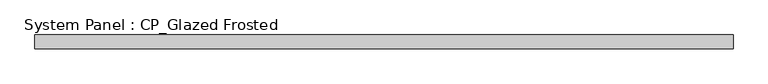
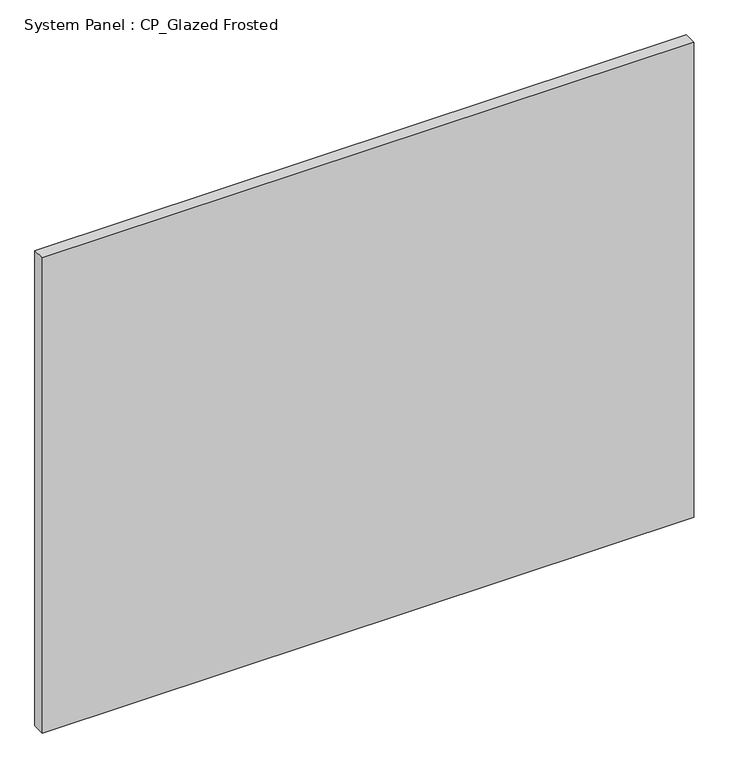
"""IFC4 building model written with IfcOpenShell, lengths in millimetres: plate geometry, System Panel : CP_Glazed Frosted."""

import ifcopenshell
import ifcopenshell.guid

model = None  # the IFC model being written
_history = None  # IfcOwnerHistory: only IFC2X3 demands one
_inside = {}  # id of a spatial element -> (the spatial element, [elements in it])
_under = {}  # id of a project, library or spatial element -> (it, [spatial elements below it])
_declared = {}  # id of a project -> (the project, [libraries it declares])
_typed = {}  # id of a type object -> (the type object, [elements of that type])
_made_of = {}  # id of a material, layer set ... -> (it, [elements and type objects made of it])


def new_model(schema):
    """Start an empty IFC model of exactly this schema.

    Asked for "IFC4X3", IfcOpenShell would pick the latest addendum, in which some entities
    have other attributes; the version numbers below select the first issue.
    IFC2X3 requires an IfcOwnerHistory on every rooted entity: one is made here for all.
    """
    global model, _history
    if schema == "IFC4X3":
        model = ifcopenshell.file(schema_version=(4, 3, 0, 0))
    else:
        model = ifcopenshell.file(schema=schema)
    _inside.clear()
    _under.clear()
    _declared.clear()
    _typed.clear()
    _made_of.clear()
    _history = None
    if model.schema == "IFC2X3":
        org = make("IfcOrganization", Name="unknown")
        user = make(
            "IfcPersonAndOrganization",
            ThePerson=make("IfcPerson", FamilyName="unknown"),
            TheOrganization=org,
        )
        app = make(
            "IfcApplication",
            ApplicationDeveloper=org,
            Version="unknown",
            ApplicationFullName="unknown",
            ApplicationIdentifier="unknown",
        )
        _history = make(
            "IfcOwnerHistory",
            OwningUser=user,
            OwningApplication=app,
            ChangeAction="ADDED",
            CreationDate=0,
        )
    return model


def make(cls, **values):
    """One entity of the class cls with the attributes given. An attribute that is None is left unset."""
    return model.create_entity(
        cls, **{name: value for name, value in values.items() if value is not None}
    )


def rooted(cls, **values):
    """An entity with a GlobalId (a new one), such as an element, a storey or a relation."""
    return make(cls, GlobalId=ifcopenshell.guid.new(), OwnerHistory=_history, **values)


def si_unit(unit_type, name, prefix=None):
    """IfcSIUnit, for example si_unit("LENGTHUNIT", "METRE", prefix="MILLI")."""
    return make("IfcSIUnit", UnitType=unit_type, Prefix=prefix, Name=name)


def assignment(units):
    """IfcUnitAssignment: the units of a project."""
    return None if units is None else make("IfcUnitAssignment", Units=units)


def point(xyz):
    """IfcCartesianPoint."""
    return None if xyz is None else make("IfcCartesianPoint", Coordinates=xyz)


def direction(xyz):
    """IfcDirection."""
    return None if xyz is None else make("IfcDirection", DirectionRatios=xyz)


def frame(location, z_axis=None, x_axis=None):
    """IfcAxis2Placement3D, a coordinate frame: its origin and axes. An axis left out is left unset."""
    return make(
        "IfcAxis2Placement3D",
        Location=point(location),
        Axis=direction(z_axis),
        RefDirection=direction(x_axis),
    )


def origin():
    """The frame at (0, 0, 0) with its axes left unset."""
    return frame((0.0, 0.0, 0.0))


def origin_with_axes():
    """The frame at (0, 0, 0) with the z axis (0, 0, 1) and the x axis (1, 0, 0) written out."""
    return frame((0.0, 0.0, 0.0), z_axis=(0.0, 0.0, 1.0), x_axis=(1.0, 0.0, 0.0))


def place(relative_to, where):
    """IfcLocalPlacement: puts the frame where relative to a parent placement (None: the world)."""
    return make(
        "IfcLocalPlacement", PlacementRelTo=relative_to, RelativePlacement=where
    )


def context(
    kind, dimensions, precision=None, world=None, true_north=None, identifier=None
):
    """IfcGeometricRepresentationContext, for example the 3D "Model" context."""
    return make(
        "IfcGeometricRepresentationContext",
        ContextIdentifier=identifier,
        ContextType=kind,
        CoordinateSpaceDimension=dimensions,
        Precision=precision,
        WorldCoordinateSystem=world,
        TrueNorth=true_north,
    )


def project(units=None, contexts=None):
    """IfcProject with its units and contexts."""
    return rooted(
        "IfcProject",
        Name="project",
        RepresentationContexts=contexts,
        UnitsInContext=assignment(units),
    )


def spatial(cls, under=None, at=None, **own):
    """A site, building, storey or space (cls), placed at a placement, below another one or the project."""
    s = rooted(cls, ObjectPlacement=at, **own)
    if under is not None:
        _under.setdefault(under.id(), (under, []))[1].append(s)
    return s


def polyline(points):
    """IfcPolyline through the points."""
    return make("IfcPolyline", Points=[point(p) for p in points])


def outline(outer, holes=None, kind="AREA"):
    """IfcArbitraryClosedProfileDef: a profile drawn as a closed curve; with holes, ...WithVoids."""
    if holes is None:
        return make("IfcArbitraryClosedProfileDef", ProfileType=kind, OuterCurve=outer)
    return make(
        "IfcArbitraryProfileDefWithVoids",
        ProfileType=kind,
        OuterCurve=outer,
        InnerCurves=holes,
    )


def extrude(swept, where, along, depth):
    """IfcExtrudedAreaSolid: the profile swept, set in the frame where, extruded along a direction by depth."""
    return make(
        "IfcExtrudedAreaSolid",
        SweptArea=swept,
        Position=where,
        ExtrudedDirection=direction(along),
        Depth=depth,
    )


def shape(context_of_items, identifier, shape_type, items):
    """IfcShapeRepresentation: the items that make up one representation, for example the "Body"."""
    return make(
        "IfcShapeRepresentation",
        ContextOfItems=context_of_items,
        RepresentationIdentifier=identifier,
        RepresentationType=shape_type,
        Items=items,
    )


def source(mapping_origin, context_of_items, identifier, shape_type, items):
    """IfcRepresentationMap: a shape defined once, which mapped items show again and again."""
    return make(
        "IfcRepresentationMap",
        MappingOrigin=mapping_origin,
        MappedRepresentation=shape(context_of_items, identifier, shape_type, items),
    )


def transform(
    local_origin,
    x_axis=None,
    y_axis=None,
    z_axis=None,
    scale=None,
    scale2=None,
    scale3=None,
    uniform=True,
):
    """IfcCartesianTransformationOperator3D, or its non-uniform kind. x_axis, y_axis, z_axis: its Axis1, 2, 3."""
    if uniform:
        return make(
            "IfcCartesianTransformationOperator3D",
            Axis1=direction(x_axis),
            Axis2=direction(y_axis),
            LocalOrigin=point(local_origin),
            Scale=scale,
            Axis3=direction(z_axis),
        )
    return make(
        "IfcCartesianTransformationOperator3DnonUniform",
        Axis1=direction(x_axis),
        Axis2=direction(y_axis),
        LocalOrigin=point(local_origin),
        Scale=scale,
        Axis3=direction(z_axis),
        Scale2=scale2,
        Scale3=scale3,
    )


def mapped(mapping_source, mapping_target):
    """IfcMappedItem: shows the shape of a source again, moved by a transform."""
    return make(
        "IfcMappedItem", MappingSource=mapping_source, MappingTarget=mapping_target
    )


def made_of(thing, what):
    """Note that an element or type object is made of a material, layer set ...; save() writes the relation."""
    if what is not None:
        _made_of.setdefault(what.id(), (what, []))[1].append(thing)
    return thing


def element(
    cls,
    number,
    at=None,
    inside=None,
    cuts=None,
    type_object=None,
    material=None,
    context=None,
    identifier="Body",
    shape_type=None,
    held_by="IfcProductDefinitionShape",
    body=None,
    shapes=None,
    **own,
):
    """One element of the class cls, such as IfcWall. Its Tag is "e" and its number.

    at: its placement. inside: the storey or other place that contains it. cuts: it is an
    opening in that element (IfcRelVoidsElement). A single representation is given by context,
    identifier, shape_type and body (its items); several are given by shapes. held_by: the class
    of the entity that holds the representations. save() writes the other relations.
    """
    e = rooted(cls, Tag="e%d" % number, ObjectPlacement=at, **own)
    if body is not None:
        shapes = [shape(context, identifier, shape_type, body)]
    if shapes is not None:
        e.Representation = make(held_by, Representations=shapes)
    if inside is not None:
        _inside.setdefault(inside.id(), (inside, []))[1].append(e)
    if cuts is not None:
        rooted(
            "IfcRelVoidsElement", RelatingBuildingElement=cuts, RelatedOpeningElement=e
        )
    if type_object is not None:
        _typed.setdefault(type_object.id(), (type_object, []))[1].append(e)
    return made_of(e, material)


def aggregate(whole, parts):
    """IfcRelAggregates: a whole, such as a stair, and the parts it consists of."""
    return rooted("IfcRelAggregates", RelatingObject=whole, RelatedObjects=parts)


def save(model, path):
    """Write the relations noted so far, then the file.

    IfcRelAggregates (storeys below a building ...), IfcRelContainedInSpatialStructure (elements
    in a storey), IfcRelDefinesByType, IfcRelAssociatesMaterial and IfcRelDeclares: one each for
    every whole, place, type object, material and project.
    """
    for whole, parts in _under.values():
        aggregate(whole, parts)
    for where, things in _inside.values():
        rooted(
            "IfcRelContainedInSpatialStructure",
            RelatedElements=things,
            RelatingStructure=where,
        )
    for kind, things in _typed.values():
        rooted("IfcRelDefinesByType", RelatedObjects=things, RelatingType=kind)
    for what, things in _made_of.values():
        rooted("IfcRelAssociatesMaterial", RelatedObjects=things, RelatingMaterial=what)
    for by, libraries in _declared.values():
        rooted("IfcRelDeclares", RelatingContext=by, RelatedDefinitions=libraries)
    model.write(path)


def system_panel_cp_glazed_frosted_f2dc9ae6(model_context):
    return source(origin(), model_context, "Body", "SweptSolid", [
        extrude(outline(polyline([(643.73125, 19.05), (-643.73125, 19.05), (-643.73125, 44.45), (643.73125, 44.45), (643.73125, 19.05)])), origin_with_axes(), (0.0, 0.0, 1.0), 992.98125),
    ])


if __name__ == "__main__":
    model = new_model("IFC4")
    model_context = context("Model", 3, world=origin())
    ifc_project = project(units=[si_unit("LENGTHUNIT", "METRE", prefix="MILLI")], contexts=[model_context])
    site = spatial("IfcSite", under=ifc_project)
    building = spatial("IfcBuilding", under=site)
    placement = place(None, origin())
    system_panel_cp_glazed_frosted_shape = system_panel_cp_glazed_frosted_f2dc9ae6(model_context)
    element("IfcPlate", 1, ObjectType="System Panel : CP_Glazed Frosted", at=placement, inside=building, context=model_context, shape_type="MappedRepresentation", body=[
        mapped(system_panel_cp_glazed_frosted_shape, transform((0.0, 0.0, 0.0), x_axis=(1.0, 0.0, 0.0), y_axis=(0.0, 1.0, 0.0), z_axis=(0.0, 0.0, 1.0))),
    ])
    save(model, "model.ifc")
